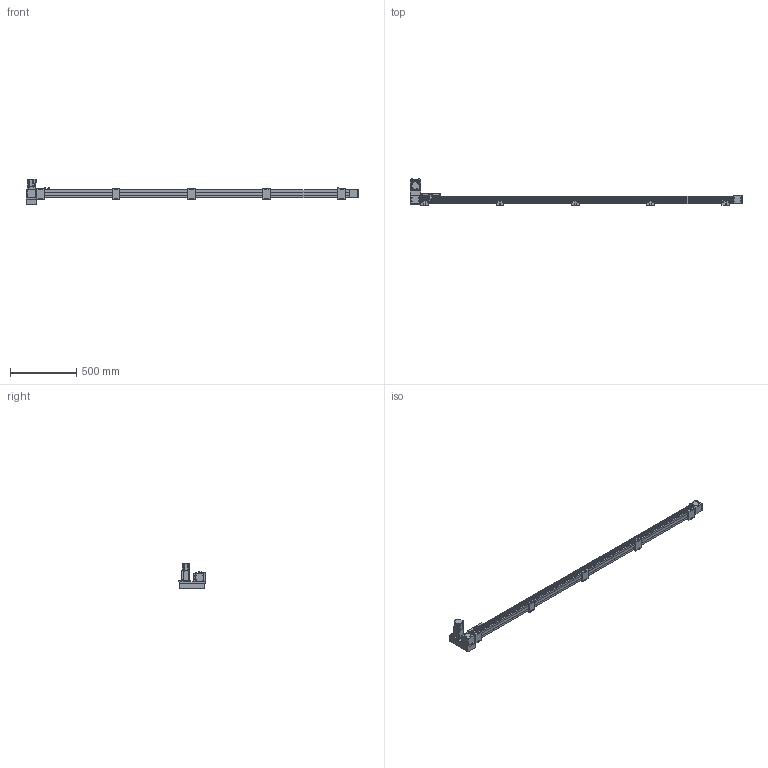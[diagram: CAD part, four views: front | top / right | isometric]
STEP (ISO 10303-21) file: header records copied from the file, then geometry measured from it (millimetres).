
FILE_DESCRIPTION(/* description */ ('STEP AP214'),/* implementation_level */ '2;1');
FILE_NAME(/* name */ 'SK60-P13-S2200-LU-T40-C1-N(0)',/* time_stamp */ '2023-04-06T04:48:35+02:00',/* author */ ('License CC BY-ND 4.0'),/* organization */ ('CADENAS'),/* preprocessor_version */ 'ST-DEVELOPER v19.3',/* originating_system */ 'PARTsolutions',/* authorisation */ ' ');
FILE_SCHEMA (('AUTOMOTIVE_DESIGN {1 0 10303 214 3 1 1}'));
Length unit declared in the file: millimetre
Products named in the file (10): SK60-P13-S2200-LU-T40-C1-N(0); PSC140-sensor; SK60-S450_seat; SK60-S450-BL-C1_slider; SK60_body3; SK60_body6; SK60-BL_body2; T40-p1; SK60-LU_fb; SK60-S2200-LU-C1_body
Assembly tree (19 placements, depth 2):
  SK60-P13-S2200-LU-T40-C1-N(0)
    PSC140-sensor  x3
    SK60-S450_seat  x5
    SK60-S450-BL-C1_slider
    SK60_body3  x3
    SK60_body6  x2
    SK60-BL_body2  x2
    T40-p1
    SK60-LU_fb
    SK60-S2200-LU-C1_body
Bounding box: 2505.5 x 201 x 189.7 mm (x, y, z)
Volume: 9716652.1 mm3; surface area: 1157243 mm2
Topology: 19 solids, 19 shells, 942 faces, 2342 edges, 1541 vertices
Faces by surface type: plane 596, cylinder 310, cone 34, torus 2
Full cylindrical faces by diameter (mm): 2.8 x3, 3.3 x4, 4 x2, 4.5 x30, 4.6 x3, 4.917 x28, 5 x6, 5.478 x4, 5.5 x31, 6.5 x10, 7 x2, 8 x4, 8.5 x4, 9.988 x4, 10 x20, 14 x1, 47 x3, 50 x2
Entity records: 18679 total; most frequent: DIRECTION 3190, CARTESIAN_POINT 3153, ORIENTED_EDGE 2940, EDGE_CURVE 1470, AXIS2_PLACEMENT_3D 1071, LINE 1048, VECTOR 1048, VERTEX_POINT 1034
